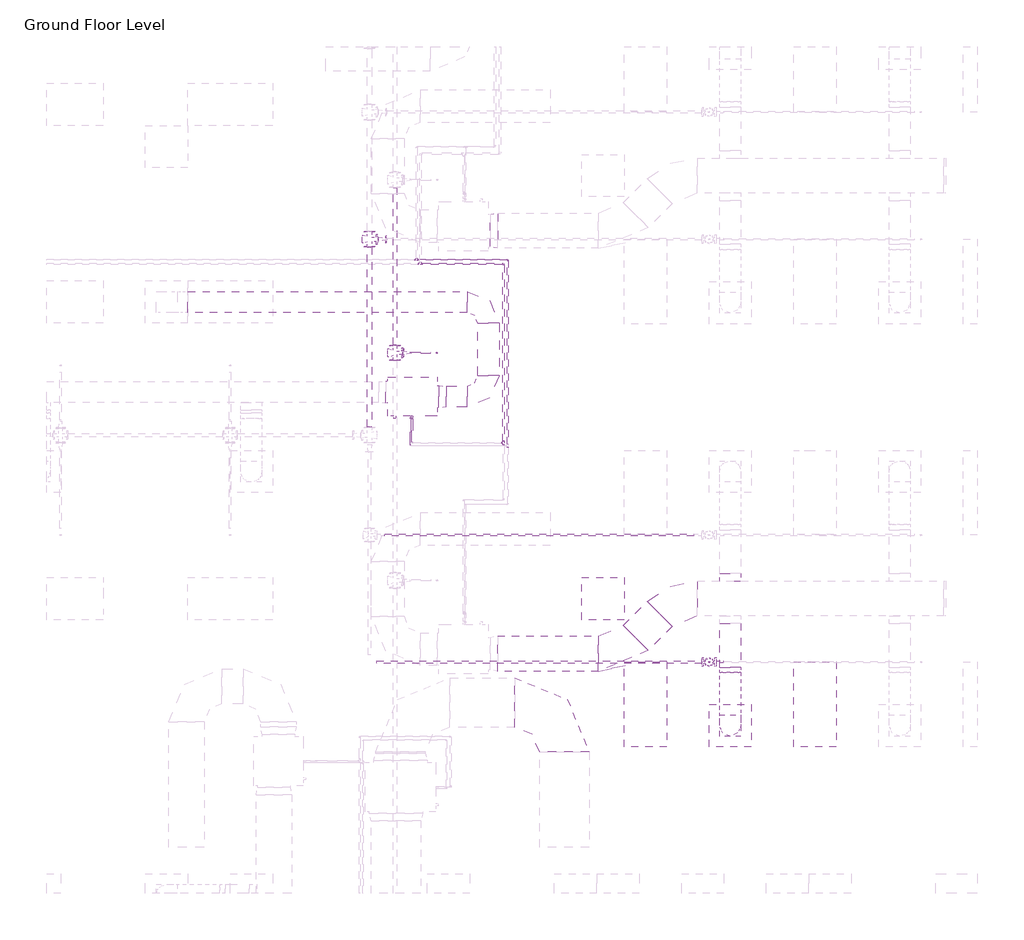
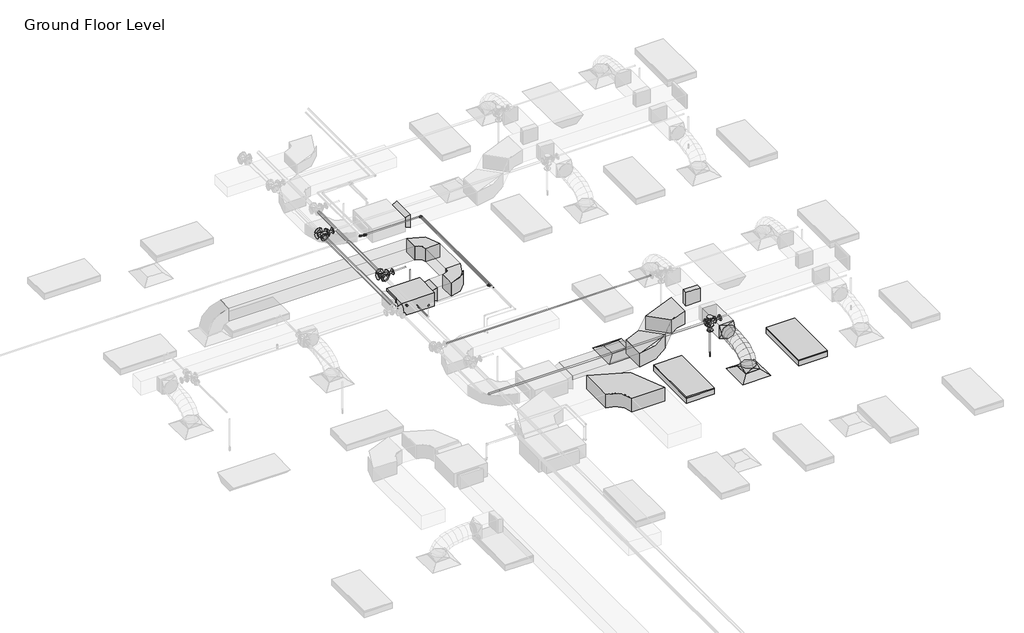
# One storey, part 36 of 74: 19 pipe fittings, 13 pipe segments, 10 duct fittings, 7 duct segments, 2 air terminals, 2 fire suppression terminals, 2 light fixtures, 1 proxy.
"""IFC4 building model written with IfcOpenShell, lengths in millimetres."""

from ifc_helpers import new_model, si_unit, point, frame, frame_2d, origin, place, context, project, spatial, polyline, circle_curve, ellipse_curve, trimmed, segment, composite_curve, outline, extrude, transform, mapped, element, save
from ifc_brep_helpers import plane_surface, cylinder_surface, advanced_brep
from components import m_return_diffuser_600_x_600_face_300_x_300_connection_ff221211, fcu_daikin_iu_27d020f6, m_rectangular_elbow_radius_1_w_618da153, m_rectangular_elbow_radius_1_w_8a62b27e, m_rectangular_elbow_radius_1_5_w_acc56c25, m_rectangular_takeoff_standard_cb0ccb98, m_rectangular_transition_angle_45_degree_2b595dfe, m_rectangular_transition_angle_45_degree_bfac0661, m_rectangular_to_round_transition_angle_45_degree_641efff0, m_sprinkler_dry_pendent_hosted_15_mm_dry_pendent_9bda8e11, m_sprinkler_pendent_15_mm_pendent_06fcbd8e, m_troffer_light_parabolic_rectangular1_0600x1200mm_4_lamp_86473d4a, m_elbow_generic_standard_a088f956, m_elbow_generic_standard_738589b0, m_reducer_flanged_cs_class_150_standard_ccf252ad, m_reducer_flanged_cs_class_150_standard_83138b42, m_reducer_flanged_cs_class_150_standard_a7631c35, m_tee_generic_standard_cdc1cff5, m_tee_generic_standard_5078887e, m_tee_generic_standard_bbfc025c, m_tee_round_base_flanged_cs_class_150_standard_dd767e04, m_tee_round_base_flanged_cs_class_150_standard_7e5987a1, m_tee_round_base_flanged_cs_class_150_standard_ab36f383, m_transition_generic_standard_6dc712c0, m_transition_generic_standard_2351da66, m_transition_generic_standard_bdcfe2c1, m_transition_generic_standard_44e35838

model = new_model("IFC4")

# Units and contexts
model_context = context("Model", 3, world=origin())
ifc_project = project(units=[si_unit("LENGTHUNIT", "METRE", prefix="MILLI")], contexts=[model_context])

# Site, building, storey
site = spatial("IfcSite", under=ifc_project)
building = spatial("IfcBuilding", under=site)
storey = spatial("IfcBuildingStorey", under=building, Name="Ground Floor Level", Elevation=900.0)

# Air terminals
placement = place(None, origin())
m_return_diffuser_600_x_600_face_300_x_300_connection_shape = m_return_diffuser_600_x_600_face_300_x_300_connection_ff221211(model_context)
element("IfcAirTerminal", 1, ObjectType="M_Return Diffuser : 600 x 600 Face 300 x 300 Connection", at=placement, inside=storey, context=model_context, shape_type="MappedRepresentation", body=[
    mapped(m_return_diffuser_600_x_600_face_300_x_300_connection_shape, transform((8942.7672395, -5264.7846466, 3650.0), x_axis=(1.0, 0.0, 0.0), y_axis=(0.0, 1.0, 0.0), z_axis=(0.0, 0.0, 1.0))),
])
element("IfcAirTerminal", 2, ObjectType="M_Supply Diffuser : 600 x 600 Face 300 x 300 Connection", at=placement, inside=storey, context=model_context, shape_type="MappedRepresentation", body=[
    mapped(m_return_diffuser_600_x_600_face_300_x_300_connection_shape, transform((10742.7672395, -7064.7846466, 3650.0), x_axis=(1.0, 0.0, 0.0), y_axis=(0.0, 1.0, 0.0), z_axis=(0.0, 0.0, 1.0))),
])

# Proxy
fcu_daikin_iu_shape = fcu_daikin_iu_27d020f6(model_context)
element("IfcBuildingElementProxy", 3, Name="FCU-DAIKIN IU : 2.3kW, 230V/50Hz/1Ph", ObjectType="FCU-DAIKIN IU : 2.3kW, 230V/50Hz/1Ph", at=placement, inside=storey, context=model_context, shape_type="MappedRepresentation", body=[
    mapped(fcu_daikin_iu_shape, transform((6243.4139492, -2405.2438478, 3934.0874667), x_axis=(0.0, -1.0, 0.0), y_axis=(1.0, 0.0, 0.0), z_axis=(0.0, 0.0, 1.0))),
])

# Duct fittings
m_rectangular_elbow_radius_1_w_shape = m_rectangular_elbow_radius_1_w_618da153(model_context)
element("IfcDuctFitting", 4, ObjectType="M_Rectangular Elbow - Radius : 1 W", at=placement, inside=storey, context=model_context, shape_type="MappedRepresentation", body=[
    mapped(m_rectangular_elbow_radius_1_w_shape, transform((7318.8139492, -2405.2438478, 4075.2874667), x_axis=(1.0, 0.0, 0.0), y_axis=(0.0, 1.0, 0.0), z_axis=(0.0, 0.0, 1.0))),
])
element("IfcDuctFitting", 5, ObjectType="M_Rectangular Elbow - Radius : 1 W", at=placement, inside=storey, context=model_context, shape_type="MappedRepresentation", body=[
    mapped(m_rectangular_elbow_radius_1_w_shape, transform((7318.8139492, -1064.7846466, 4075.2874667), x_axis=(0.0, 1.0, 0.0), y_axis=(-1.0, 0.0, 0.0), z_axis=(0.0, 0.0, 1.0))),
])
m_rectangular_elbow_radius_1_w_2_shape = m_rectangular_elbow_radius_1_w_8a62b27e(model_context)
element("IfcDuctFitting", 6, ObjectType="M_Rectangular Elbow - Radius : 1 W", at=placement, inside=storey, context=model_context, shape_type="MappedRepresentation", body=[
    mapped(m_rectangular_elbow_radius_1_w_2_shape, transform((8393.4139492, -6738.5358641, 4075.2875), x_axis=(0.0, 1.0, 0.0), y_axis=(-1.0, 0.0, 0.0), z_axis=(0.0, 0.0, 1.0))),
])
m_rectangular_elbow_radius_1_5_w_shape = m_rectangular_elbow_radius_1_5_w_acc56c25(model_context)
element("IfcDuctFitting", 7, ObjectType="M_Rectangular Elbow - Radius : 1.5 W", at=placement, inside=storey, context=model_context, shape_type="MappedRepresentation", body=[
    mapped(m_rectangular_elbow_radius_1_5_w_shape, transform((9187.6927358, -6043.8220473, 4100.0047224), x_axis=(0.9999999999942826, 0.0, -3.3815582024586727e-06), y_axis=(-9.063610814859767e-12, 0.9999999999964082, -2.680306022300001e-06), z_axis=(3.3815582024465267e-06, 2.6803060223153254e-06, 0.9999999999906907))),
])
element("IfcDuctFitting", 8, ObjectType="M_Rectangular Elbow - Radius : 1.5 W", at=placement, inside=storey, context=model_context, shape_type="MappedRepresentation", body=[
    mapped(m_rectangular_elbow_radius_1_5_w_shape, transform((9966.7301365, -5264.7846466, 4100.0), x_axis=(-1.0, 0.0, 0.0), y_axis=(0.0, -0.9999999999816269, 6.061864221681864e-06), z_axis=(0.0, 6.061864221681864e-06, 0.9999999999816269))),
])
m_rectangular_takeoff_standard_shape = m_rectangular_takeoff_standard_cb0ccb98(model_context)
element("IfcDuctFitting", 9, ObjectType="M_Rectangular Takeoff : Standard", at=placement, inside=storey, context=model_context, shape_type="MappedRepresentation", body=[
    mapped(m_rectangular_takeoff_standard_shape, transform((10742.7672395, -5014.7846466, 4100.0), x_axis=(0.0, 1.0, 0.0), y_axis=(1.0, 0.0, 0.0), z_axis=(0.0, 0.0, -1.0))),
])
m_rectangular_transition_angle_45_degree_shape = m_rectangular_transition_angle_45_degree_2b595dfe(model_context)
element("IfcDuctFitting", 10, ObjectType="M_Rectangular Transition - Angle : 45 Degree", at=placement, inside=storey, context=model_context, shape_type="MappedRepresentation", body=[
    mapped(m_rectangular_transition_angle_45_degree_shape, transform((7344.2139492, -53.8220473, 4100.0057729), x_axis=(1.0, 0.0, 0.0), y_axis=(0.0, 1.0, 0.0), z_axis=(0.0, 0.0, 1.0))),
])
m_rectangular_transition_angle_45_degree_2_shape = m_rectangular_transition_angle_45_degree_bfac0661(model_context)
element("IfcDuctFitting", 11, ObjectType="M_Rectangular Transition - Angle : 45 Degree", at=placement, inside=storey, context=model_context, shape_type="MappedRepresentation", body=[
    mapped(m_rectangular_transition_angle_45_degree_2_shape, transform((6618.8139492, -2405.2438478, 4075.2874667), x_axis=(1.0, 0.0, 0.0), y_axis=(0.0, 1.0, 0.0), z_axis=(0.0, 0.0, 1.0))),
])
m_rectangular_to_round_transition_angle_45_degree_shape = m_rectangular_to_round_transition_angle_45_degree_641efff0(model_context)
element("IfcDuctFitting", 12, ObjectType="M_Rectangular to Round Transition - Angle : 45 Degree", at=placement, inside=storey, context=model_context, shape_type="MappedRepresentation", body=[
    mapped(m_rectangular_to_round_transition_angle_45_degree_shape, transform((10742.7672395, -7064.7846466, 3751.6), x_axis=(0.0, 0.0, 1.0), y_axis=(-1.0, 0.0, 0.0), z_axis=(0.0, -1.0, 0.0))),
])
element("IfcDuctFitting", 13, ObjectType="M_Rectangular to Round Transition - Angle : 45 Degree", at=placement, inside=storey, context=model_context, shape_type="MappedRepresentation", body=[
    mapped(m_rectangular_to_round_transition_angle_45_degree_shape, transform((10742.7672395, -6237.4487153, 4100.0), x_axis=(0.0, -1.0, 0.0), y_axis=(1.0, 0.0, 0.0), z_axis=(0.0, 0.0, 1.0))),
])

# Duct segments
element("IfcDuctSegment", 14, ObjectType="Flex - Round", at=placement, inside=storey, context=model_context, shape_type="AdvancedBrep", body=[
    advanced_brep(
    [(10892.7672395, -7064.7846466, 3826.6), (10742.7672395, -7214.7846466, 3826.6), (10592.7672395, -7064.7846466, 3826.6), (10742.7672395, -6914.7846466, 3826.6), (10892.7672395, -7064.7846466, 3857.9377114), (10742.7672395, -7214.7846466, 3883.5809337), (10592.7672395, -7064.7846466, 3857.9377114), (10742.7672395, -6914.7846466, 3832.2944892), (10892.7672395, -7047.7687141, 3906.2505728), (10742.7672395, -7181.506693, 3978.0660967), (10592.7672395, -7047.7687141, 3906.2505728), (10742.7672395, -6914.0307351, 3834.435049), (10892.7672395, -7000.5848337, 3968.7113131), (10742.7672395, -7104.7907329, 4079.6206026), (10592.7672395, -7000.5848337, 3968.7113131), (10742.7672395, -6896.3789345, 3857.8020236), (10892.7672395, -6929.0288815, 4016.0700639), (10742.7672395, -6997.9629372, 4150.3237489), (10592.7672395, -6929.0288815, 4016.0700639), (10742.7672395, -6860.0948259, 3881.8163788), (10892.7672395, -6838.8967335, 4050.4146682), (10742.7672395, -6882.4574967, 4194.3367758), (10592.7672395, -6838.8967335, 4050.4146682), (10742.7672395, -6795.3359704, 3906.4925606), (10892.7672395, -6735.9842657, 4073.8329691), (10742.7672395, -6762.5451897, 4221.6234841), (10592.7672395, -6735.9842657, 4073.8329691), (10742.7672395, -6709.4233417, 3926.0424542), (10892.7672395, -6626.087354, 4088.4128097), (10742.7672395, -6641.2382563, 4237.7170733), (10592.7672395, -6626.087354, 4088.4128097), (10742.7672395, -6610.9364516, 3939.1085462), (10892.7672395, -6515.0018743, 4096.242033), (10742.7672395, -6522.5072025, 4246.085151), (10592.7672395, -6515.0018743, 4096.242033), (10742.7672395, -6507.4965462, 3946.398915), (10892.7672395, -6408.5237028, 4099.4084821), (10742.7672395, -6411.2151959, 4249.394754), (10592.7672395, -6408.5237028, 4099.4084821), (10742.7672395, -6405.8322097, 3949.4222102), (10892.7672395, -6312.4487153, 4100.0), (10742.7672395, -6311.5252075, 3950.0028429), (10592.7672395, -6312.4487153, 4100.0), (10742.7672395, -6313.3722232, 4249.9971571)],
    [
        (0, 1, circle_curve(frame((10742.7672395, -7064.7846466, 3826.6), z_axis=(0.0, 0.0, -1.0), x_axis=(1.0, 0.0, 0.0)), 150.0)),
        (1, 2, circle_curve(frame((10742.7672395, -7064.7846466, 3826.6), z_axis=(0.0, 0.0, -1.0), x_axis=(1.0, 0.0, 0.0)), 150.0)),
        (2, 3, circle_curve(frame((10742.7672395, -7064.7846466, 3826.6), z_axis=(0.0, 0.0, -1.0), x_axis=(1.0, 0.0, 0.0)), 150.0)),
        (3, 0, circle_curve(frame((10742.7672395, -7064.7846466, 3826.6), z_axis=(0.0, 0.0, -1.0), x_axis=(1.0, 0.0, 0.0)), 150.0)),
        (0, 4),
        (4, 5, ellipse_curve(frame((10742.7672395, -7064.7846466, 3857.9377114), z_axis=(0.0, -0.16851014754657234, -0.9856999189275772), x_axis=(0.0, 0.9856999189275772, -0.1685101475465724)), 152.176131, 150.0)),
        (5, 1),
        (5, 6, ellipse_curve(frame((10742.7672395, -7064.7846466, 3857.9377114), z_axis=(0.0, -0.16851014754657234, -0.9856999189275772), x_axis=(0.0, 0.9856999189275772, -0.1685101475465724)), 152.176131, 150.0)),
        (6, 2),
        (6, 7, ellipse_curve(frame((10742.7672395, -7064.7846466, 3857.9377114), z_axis=(0.0, -0.16851014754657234, -0.9856999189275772), x_axis=(0.0, 0.9856999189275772, -0.1685101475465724)), 152.176131, 150.0)),
        (7, 3),
        (7, 4, ellipse_curve(frame((10742.7672395, -7064.7846466, 3857.9377114), z_axis=(0.0, -0.16851014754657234, -0.9856999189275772), x_axis=(0.0, 0.9856999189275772, -0.1685101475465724)), 152.176131, 150.0)),
        (4, 8),
        (8, 9, ellipse_curve(frame((10742.7672395, -7047.7687141, 3906.2505728), z_axis=(0.0, -0.4730922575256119, -0.8810128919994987), x_axis=(0.0, 0.8810128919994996, -0.47309225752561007)), 151.8002519, 150.0)),
        (9, 5),
        (9, 10, ellipse_curve(frame((10742.7672395, -7047.7687141, 3906.2505728), z_axis=(0.0, -0.4730922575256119, -0.8810128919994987), x_axis=(0.0, 0.8810128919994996, -0.47309225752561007)), 151.8002519, 150.0)),
        (10, 6),
        (10, 11, ellipse_curve(frame((10742.7672395, -7047.7687141, 3906.2505728), z_axis=(0.0, -0.4730922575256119, -0.8810128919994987), x_axis=(0.0, 0.8810128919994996, -0.47309225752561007)), 151.8002519, 150.0)),
        (11, 7),
        (11, 8, ellipse_curve(frame((10742.7672395, -7047.7687141, 3906.2505728), z_axis=(0.0, -0.4730922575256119, -0.8810128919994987), x_axis=(0.0, 0.8810128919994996, -0.47309225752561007)), 151.8002519, 150.0)),
        (8, 12),
        (12, 13, ellipse_curve(frame((10742.7672395, -7000.5848337, 3968.7113131), z_axis=(0.0, -0.7287877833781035, -0.6847396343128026), x_axis=(0.0, 0.6847396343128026, -0.7287877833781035)), 152.1832446, 150.0)),
        (13, 9),
        (13, 14, ellipse_curve(frame((10742.7672395, -7000.5848337, 3968.7113131), z_axis=(0.0, -0.7287877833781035, -0.6847396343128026), x_axis=(0.0, 0.6847396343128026, -0.7287877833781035)), 152.1832446, 150.0)),
        (14, 10),
        (14, 15, ellipse_curve(frame((10742.7672395, -7000.5848337, 3968.7113131), z_axis=(0.0, -0.7287877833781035, -0.6847396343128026), x_axis=(0.0, 0.6847396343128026, -0.7287877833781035)), 152.1832446, 150.0)),
        (15, 11),
        (15, 12, ellipse_curve(frame((10742.7672395, -7000.5848337, 3968.7113131), z_axis=(0.0, -0.7287877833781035, -0.6847396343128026), x_axis=(0.0, 0.6847396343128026, -0.7287877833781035)), 152.1832446, 150.0)),
        (12, 16),
        (16, 17, ellipse_curve(frame((10742.7672395, -6929.0288815, 4016.0700639), z_axis=(0.0, -0.8895859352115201, -0.4567678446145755), x_axis=(0.0, 0.45676784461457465, -0.8895859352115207)), 150.91705, 150.0)),
        (17, 13),
        (17, 18, ellipse_curve(frame((10742.7672395, -6929.0288815, 4016.0700639), z_axis=(0.0, -0.8895859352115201, -0.4567678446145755), x_axis=(0.0, 0.45676784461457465, -0.8895859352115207)), 150.91705, 150.0)),
        (18, 14),
        (18, 19, ellipse_curve(frame((10742.7672395, -6929.0288815, 4016.0700639), z_axis=(0.0, -0.8895859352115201, -0.4567678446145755), x_axis=(0.0, 0.45676784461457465, -0.8895859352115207)), 150.91705, 150.0)),
        (19, 15),
        (19, 16, ellipse_curve(frame((10742.7672395, -6929.0288815, 4016.0700639), z_axis=(0.0, -0.8895859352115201, -0.4567678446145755), x_axis=(0.0, 0.45676784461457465, -0.8895859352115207)), 150.91705, 150.0)),
        (16, 20),
        (20, 21, ellipse_curve(frame((10742.7672395, -6838.8967335, 4050.4146682), z_axis=(0.0, -0.9571203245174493, -0.28969067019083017), x_axis=(0.0, 0.28969067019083, -0.9571203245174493)), 150.369921, 150.0)),
        (21, 17),
        (21, 22, ellipse_curve(frame((10742.7672395, -6838.8967335, 4050.4146682), z_axis=(0.0, -0.9571203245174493, -0.28969067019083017), x_axis=(0.0, 0.28969067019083, -0.9571203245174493)), 150.369921, 150.0)),
        (22, 18),
        (22, 23, ellipse_curve(frame((10742.7672395, -6838.8967335, 4050.4146682), z_axis=(0.0, -0.9571203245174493, -0.28969067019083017), x_axis=(0.0, 0.28969067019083, -0.9571203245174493)), 150.369921, 150.0)),
        (23, 19),
        (23, 20, ellipse_curve(frame((10742.7672395, -6838.8967335, 4050.4146682), z_axis=(0.0, -0.9571203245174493, -0.28969067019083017), x_axis=(0.0, 0.28969067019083, -0.9571203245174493)), 150.369921, 150.0)),
        (20, 24),
        (24, 25, ellipse_curve(frame((10742.7672395, -6735.9842657, 4073.8329691), z_axis=(0.0, -0.9842313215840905, -0.1768861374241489), x_axis=(0.0, 0.17688613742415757, -0.9842313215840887)), 150.1583131, 150.0)),
        (25, 21),
        (25, 26, ellipse_curve(frame((10742.7672395, -6735.9842657, 4073.8329691), z_axis=(0.0, -0.9842313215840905, -0.1768861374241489), x_axis=(0.0, 0.17688613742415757, -0.9842313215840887)), 150.1583131, 150.0)),
        (26, 22),
        (26, 27, ellipse_curve(frame((10742.7672395, -6735.9842657, 4073.8329691), z_axis=(0.0, -0.9842313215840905, -0.1768861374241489), x_axis=(0.0, 0.17688613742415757, -0.9842313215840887)), 150.1583131, 150.0)),
        (27, 23),
        (27, 24, ellipse_curve(frame((10742.7672395, -6735.9842657, 4073.8329691), z_axis=(0.0, -0.9842313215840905, -0.1768861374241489), x_axis=(0.0, 0.17688613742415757, -0.9842313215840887)), 150.1583131, 150.0)),
        (24, 28),
        (28, 29, ellipse_curve(frame((10742.7672395, -6626.087354, 4088.4128097), z_axis=(0.0, -0.9948906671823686, -0.10095821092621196), x_axis=(0.0, 0.10095821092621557, -0.9948906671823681)), 150.0710264, 150.0)),
        (29, 25),
        (29, 30, ellipse_curve(frame((10742.7672395, -6626.087354, 4088.4128097), z_axis=(0.0, -0.9948906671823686, -0.10095821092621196), x_axis=(0.0, 0.10095821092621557, -0.9948906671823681)), 150.0710264, 150.0)),
        (30, 26),
        (30, 31, ellipse_curve(frame((10742.7672395, -6626.087354, 4088.4128097), z_axis=(0.0, -0.9948906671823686, -0.10095821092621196), x_axis=(0.0, 0.10095821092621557, -0.9948906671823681)), 150.0710264, 150.0)),
        (31, 27),
        (31, 28, ellipse_curve(frame((10742.7672395, -6626.087354, 4088.4128097), z_axis=(0.0, -0.9948906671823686, -0.10095821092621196), x_axis=(0.0, 0.10095821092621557, -0.9948906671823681)), 150.0710264, 150.0)),
        (28, 32),
        (32, 33, ellipse_curve(frame((10742.7672395, -6515.0018743, 4096.242033), z_axis=(0.0, -0.9987479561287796, -0.05002519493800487), x_axis=(0.0, 0.050025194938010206, -0.9987479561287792)), 150.0309634, 150.0)),
        (33, 29),
        (33, 34, ellipse_curve(frame((10742.7672395, -6515.0018743, 4096.242033), z_axis=(0.0, -0.9987479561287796, -0.05002519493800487), x_axis=(0.0, 0.050025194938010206, -0.9987479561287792)), 150.0309634, 150.0)),
        (34, 30),
        (34, 35, ellipse_curve(frame((10742.7672395, -6515.0018743, 4096.242033), z_axis=(0.0, -0.9987479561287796, -0.05002519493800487), x_axis=(0.0, 0.050025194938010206, -0.9987479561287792)), 150.0309634, 150.0)),
        (35, 31),
        (35, 32, ellipse_curve(frame((10742.7672395, -6515.0018743, 4096.242033), z_axis=(0.0, -0.9987479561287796, -0.05002519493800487), x_axis=(0.0, 0.050025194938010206, -0.9987479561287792)), 150.0309634, 150.0)),
        (32, 36),
        (36, 37, ellipse_curve(frame((10742.7672395, -6408.5237028, 4099.4084821), z_axis=(0.0, -0.9998390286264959, -0.017942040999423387), x_axis=(0.0, 0.01794204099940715, -0.9998390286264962)), 150.0104193, 150.0)),
        (37, 33),
        (37, 38, ellipse_curve(frame((10742.7672395, -6408.5237028, 4099.4084821), z_axis=(0.0, -0.9998390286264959, -0.017942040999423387), x_axis=(0.0, 0.01794204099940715, -0.9998390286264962)), 150.0104193, 150.0)),
        (38, 34),
        (38, 39, ellipse_curve(frame((10742.7672395, -6408.5237028, 4099.4084821), z_axis=(0.0, -0.9998390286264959, -0.017942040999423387), x_axis=(0.0, 0.01794204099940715, -0.9998390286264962)), 150.0104193, 150.0)),
        (39, 35),
        (39, 36, ellipse_curve(frame((10742.7672395, -6408.5237028, 4099.4084821), z_axis=(0.0, -0.9998390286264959, -0.017942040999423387), x_axis=(0.0, 0.01794204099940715, -0.9998390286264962)), 150.0104193, 150.0)),
        (40, 41, circle_curve(frame((10742.7672395, -6312.4487153, 4100.0), z_axis=(0.0, 0.9999810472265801, 0.0061567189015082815), x_axis=(1.0, 0.0, 0.0)), 150.0)),
        (41, 42, circle_curve(frame((10742.7672395, -6312.4487153, 4100.0), z_axis=(0.0, 0.9999810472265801, 0.0061567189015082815), x_axis=(1.0, 0.0, 0.0)), 150.0)),
        (42, 43, circle_curve(frame((10742.7672395, -6312.4487153, 4100.0), z_axis=(0.0, 0.9999810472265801, 0.0061567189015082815), x_axis=(1.0, 0.0, 0.0)), 150.0)),
        (43, 40, circle_curve(frame((10742.7672395, -6312.4487153, 4100.0), z_axis=(0.0, 0.9999810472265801, 0.0061567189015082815), x_axis=(1.0, 0.0, 0.0)), 150.0)),
        (36, 40),
        (43, 37),
        (42, 38),
        (41, 39),
    ],
    [
        plane_surface(frame((10742.7672395, -7214.7846466, 3826.6), z_axis=(0.0, 0.0, -1.0), x_axis=(1.0, 0.0, 0.0))),
        cylinder_surface(frame((10742.7672395, -7064.7846466, 3826.6), z_axis=(0.0, 0.0, -1.0), x_axis=(1.0, 0.0, 0.0)), 150.0),
        cylinder_surface(frame((10742.7672395, -7064.7846466, 3857.9377114), z_axis=(0.0, -0.3322008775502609, -0.9432086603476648), x_axis=(1.0, 0.0, 0.0)), 150.0),
        cylinder_surface(frame((10742.7672395, -7047.7687141, 3906.2505728), z_axis=(0.0, -0.6027625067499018, -0.7979206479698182), x_axis=(1.0, 0.0, 0.0)), 150.0),
        cylinder_surface(frame((10742.7672395, -7000.5848337, 3968.7113131), z_axis=(0.0, -0.8339024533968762, -0.5519118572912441), x_axis=(1.0, 0.0, 0.0)), 150.0),
        cylinder_surface(frame((10742.7672395, -6929.0288815, 4016.0700639), z_axis=(0.0, -0.9344582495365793, -0.3560727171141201), x_axis=(1.0, 0.0, 0.0)), 150.0),
        cylinder_surface(frame((10742.7672395, -6838.8967335, 4050.4146682), z_axis=(0.0, -0.9750732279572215, -0.2218833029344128), x_axis=(1.0, 0.0, 0.0)), 150.0),
        cylinder_surface(frame((10742.7672395, -6735.9842657, 4073.8329691), z_axis=(0.0, -0.9913140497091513, -0.13151598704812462), x_axis=(1.0, 0.0, 0.0)), 150.0),
        cylinder_surface(frame((10742.7672395, -6626.087354, 4088.4128097), z_axis=(0.0, -0.9975255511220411, -0.07030487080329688), x_axis=(1.0, 0.0, 0.0)), 150.0),
        cylinder_surface(frame((10742.7672395, -6515.0018743, 4096.242033), z_axis=(0.0, -0.9995581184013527, -0.02972487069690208), x_axis=(1.0, 0.0, 0.0)), 150.0),
        plane_surface(frame((10742.7672395, -6313.3722232, 4249.9971571), z_axis=(0.0, 0.9999810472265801, 0.0061567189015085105), x_axis=(1.0, 0.0, 0.0))),
        cylinder_surface(frame((10742.7672395, -6408.5237028, 4099.4084821), z_axis=(0.0, -0.9999810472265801, -0.0061567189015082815), x_axis=(1.0, 0.0, 0.0)), 150.0),
    ],
    [
        (0, [[1, 2, 3, 4]]),
        (1, [[-1, 5, 6, 7]]),
        (1, [[-2, -7, 8, 9]]),
        (1, [[-3, -9, 10, 11]]),
        (1, [[-4, -11, 12, -5]]),
        (2, [[-6, 13, 14, 15]]),
        (2, [[-8, -15, 16, 17]]),
        (2, [[-10, -17, 18, 19]]),
        (2, [[-12, -19, 20, -13]]),
        (3, [[-14, 21, 22, 23]]),
        (3, [[-16, -23, 24, 25]]),
        (3, [[-18, -25, 26, 27]]),
        (3, [[-20, -27, 28, -21]]),
        (4, [[-22, 29, 30, 31]]),
        (4, [[-24, -31, 32, 33]]),
        (4, [[-26, -33, 34, 35]]),
        (4, [[-28, -35, 36, -29]]),
        (5, [[-30, 37, 38, 39]]),
        (5, [[-32, -39, 40, 41]]),
        (5, [[-34, -41, 42, 43]]),
        (5, [[-36, -43, 44, -37]]),
        (6, [[-38, 45, 46, 47]]),
        (6, [[-40, -47, 48, 49]]),
        (6, [[-42, -49, 50, 51]]),
        (6, [[-44, -51, 52, -45]]),
        (7, [[-46, 53, 54, 55]]),
        (7, [[-48, -55, 56, 57]]),
        (7, [[-50, -57, 58, 59]]),
        (7, [[-52, -59, 60, -53]]),
        (8, [[-54, 61, 62, 63]]),
        (8, [[-56, -63, 64, 65]]),
        (8, [[-58, -65, 66, 67]]),
        (8, [[-60, -67, 68, -61]]),
        (9, [[-62, 69, 70, 71]]),
        (9, [[-64, -71, 72, 73]]),
        (9, [[-66, -73, 74, 75]]),
        (9, [[-68, -75, 76, -69]]),
        (10, [[77, 78, 79, 80]]),
        (11, [[-70, 81, -80, 82]]),
        (11, [[-72, -82, -79, 83]]),
        (11, [[-74, -83, -78, 84]]),
        (11, [[-76, -84, -77, -81]]),
    ],
),
])
element("IfcDuctSegment", 15, ObjectType="Radius Elbows / Taps", at=placement, inside=storey, context=model_context, shape_type="SweptSolid", body=[
    extrude(outline(polyline([(7447.693178, -6293.8220473), (7447.693178, -5793.8220473), (8877.032564, -5793.8220473), (8877.032564, -6293.8220473), (7447.693178, -6293.8220473)])), frame((0.0, 0.0, 3950.0057729), z_axis=(0.0, 0.0, 1.0), x_axis=(1.0, 0.0, 0.0)), (0.0, 0.0, 1.0), 300.0),
])
element("IfcDuctSegment", 16, ObjectType="Radius Elbows / Taps", at=placement, inside=storey, context=model_context, shape_type="SweptSolid", body=[
    extrude(outline(polyline([(9584.1393452, -6000.9288285), (9230.5859546, -5647.3754379), (9570.2835271, -5307.6778654), (9923.8369177, -5661.231256), (9584.1393452, -6000.9288285)])), frame((0.0, 0.0, 3950.0033908), z_axis=(0.0, 0.0, 1.0), x_axis=(1.0, 0.0, 0.0)), (0.0, 0.0, 1.0), 300.0),
])
element("IfcDuctSegment", 17, ObjectType="Radius Elbows / Taps", at=placement, inside=storey, context=model_context, shape_type="SweptSolid", body=[
    extrude(outline(polyline([(6722.2630004, -2555.2438478), (6722.2630004, -2255.2438478), (7018.8139492, -2255.2438478), (7018.8139492, -2555.2438478), (6722.2630004, -2555.2438478)])), frame((0.0, 0.0, 3925.2874667), z_axis=(0.0, 0.0, 1.0), x_axis=(1.0, 0.0, 0.0)), (0.0, 0.0, 1.0), 300.0),
])
element("IfcDuctSegment", 18, ObjectType="Radius Elbows / Taps", at=placement, inside=storey, context=model_context, shape_type="SweptSolid", body=[
    extrude(outline(polyline([(7468.8139492, -2105.2438478), (7168.8139492, -2105.2438478), (7168.8139492, -1364.7846466), (7468.8139492, -1364.7846466), (7468.8139492, -2105.2438478)])), frame((0.0, 0.0, 3925.2874667), z_axis=(0.0, 0.0, 1.0), x_axis=(1.0, 0.0, 0.0)), (0.0, 0.0, 1.0), 300.0),
])
element("IfcDuctSegment", 19, ObjectType="Radius Elbows / Taps", at=placement, inside=storey, context=model_context, shape_type="SweptSolid", body=[
    extrude(outline(polyline([(3062.7672395, -1214.7846466), (3062.7672395, -914.7846466), (7018.8139492, -914.7846466), (7018.8139492, -1214.7846466), (3062.7672395, -1214.7846466)])), frame((0.0, 0.0, 3925.2874667), z_axis=(0.0, 0.0, 1.0), x_axis=(1.0, 0.0, 0.0)), (0.0, 0.0, 1.0), 300.0),
])
element("IfcDuctSegment", 20, ObjectType="Radius Elbows / Taps", at=placement, inside=storey, context=model_context, shape_type="SweptSolid", body=[
    extrude(outline(polyline([(10592.7672395, -5616.3846466), (10892.7672395, -5616.3846466), (10892.7672395, -6237.4487153), (10592.7672395, -6237.4487153), (10592.7672395, -5616.3846466)])), frame((0.0, 0.0, 3950.0), z_axis=(0.0, 0.0, 1.0), x_axis=(1.0, 0.0, 0.0)), (0.0, 0.0, 1.0), 300.0),
])

# Fire suppression terminals
m_sprinkler_dry_pendent_hosted_15_mm_dry_pendent_shape = m_sprinkler_dry_pendent_hosted_15_mm_dry_pendent_9bda8e11(model_context)
element("IfcFireSuppressionTerminal", 21, ObjectType="M_Sprinkler - Dry - Pendent - Hosted : 15 mm Dry Pendent", at=placement, inside=storey, context=model_context, shape_type="MappedRepresentation", body=[
    mapped(m_sprinkler_dry_pendent_hosted_15_mm_dry_pendent_shape, transform((10442.7672395, -6164.7846466, 3650.0), x_axis=(1.0, 0.0, 0.0), y_axis=(0.0, -1.0, 0.0), z_axis=(0.0, 0.0, -1.0))),
])
m_sprinkler_pendent_15_mm_pendent_shape = m_sprinkler_pendent_15_mm_pendent_06fcbd8e(model_context)
element("IfcFireSuppressionTerminal", 22, ObjectType="M_Sprinkler - Pendent : 15 mm Pendent", at=placement, inside=storey, context=model_context, shape_type="MappedRepresentation", body=[
    mapped(m_sprinkler_pendent_15_mm_pendent_shape, transform((6592.5481019, -1785.2908301, 3650.0), x_axis=(1.0, 0.0, 0.0), y_axis=(0.0, 1.0, 0.0), z_axis=(0.0, 0.0, 1.0))),
])

# Light fixtures
m_troffer_light_parabolic_rectangular1_0600x1200mm_4_lamp_shape = m_troffer_light_parabolic_rectangular1_0600x1200mm_4_lamp_86473d4a(model_context)
element("IfcLightFixture", 23, ObjectType="M_Troffer Light - Parabolic Rectangular1 : 0600x1200mm(4 Lamp) - 277V 2", at=placement, inside=storey, context=model_context, shape_type="MappedRepresentation", body=[
    mapped(m_troffer_light_parabolic_rectangular1_0600x1200mm_4_lamp_shape, transform((9483.3013074, -6746.081145, 3650.0), x_axis=(0.0, 1.0, 0.0), y_axis=(-1.0, 0.0, 0.0), z_axis=(0.0, 0.0, 1.0))),
])
element("IfcLightFixture", 24, ObjectType="M_Troffer Light - Parabolic Rectangular1 : 0600x1200mm(4 Lamp) - 277V 2", at=placement, inside=storey, context=model_context, shape_type="MappedRepresentation", body=[
    mapped(m_troffer_light_parabolic_rectangular1_0600x1200mm_4_lamp_shape, transform((11883.3013074, -6746.081145, 3650.0), x_axis=(0.0, 1.0, 0.0), y_axis=(-1.0, 0.0, 0.0), z_axis=(0.0, 0.0, 1.0))),
])

# Pipe fittings
m_elbow_generic_standard_shape = m_elbow_generic_standard_a088f956(model_context)
element("IfcPipeFitting", 25, ObjectType="M_Elbow - Generic : Standard", at=placement, inside=storey, context=model_context, shape_type="MappedRepresentation", body=[
    mapped(m_elbow_generic_standard_shape, transform((7594.4307053, -465.9814862, 4265.0), x_axis=(0.0, 1.0, 0.0), y_axis=(-1.0, 0.0, 0.0), z_axis=(0.0, 0.0, 1.0))),
])
m_elbow_generic_standard_2_shape = m_elbow_generic_standard_738589b0(model_context)
element("IfcPipeFitting", 26, ObjectType="M_Elbow - Generic : Standard", at=placement, inside=storey, context=model_context, shape_type="MappedRepresentation", body=[
    mapped(m_elbow_generic_standard_2_shape, transform((7534.4307053, -523.9901455, 4300.0), x_axis=(0.0, 1.0, 0.0), y_axis=(-1.0, 0.0, 0.0), z_axis=(0.0, 0.0, 1.0))),
])
m_reducer_flanged_cs_class_150_standard_shape = m_reducer_flanged_cs_class_150_standard_ccf252ad(model_context)
element("IfcPipeFitting", 27, ObjectType="M_Reducer - Flanged - CS - Class 150 : Standard", at=placement, inside=storey, context=model_context, shape_type="MappedRepresentation", body=[
    mapped(m_reducer_flanged_cs_class_150_standard_shape, transform((10543.4758332, -6164.7846466, 4360.0), x_axis=(1.0, 0.0, 0.0), y_axis=(0.0, 0.0, 1.0), z_axis=(0.0, -1.0, 0.0))),
])
element("IfcPipeFitting", 28, ObjectType="M_Reducer - Flanged - CS - Class 150 : Standard", at=placement, inside=storey, context=model_context, shape_type="MappedRepresentation", body=[
    mapped(m_reducer_flanged_cs_class_150_standard_shape, transform((10442.7672395, -6164.7846466, 4259.2914063), x_axis=(0.0, 0.0, -1.0), y_axis=(-1.0, 0.0, 0.0), z_axis=(0.0, 1.0, 0.0))),
])
m_reducer_flanged_cs_class_150_standard_2_shape = m_reducer_flanged_cs_class_150_standard_83138b42(model_context)
element("IfcPipeFitting", 29, ObjectType="M_Reducer - Flanged - CS - Class 150 : Standard", at=placement, inside=storey, context=model_context, shape_type="MappedRepresentation", body=[
    mapped(m_reducer_flanged_cs_class_150_standard_2_shape, transform((6109.3164057, -1785.2908301, 4291.2754753), x_axis=(1.0, 0.0, 0.0), y_axis=(0.0, 0.0, -1.0), z_axis=(0.0, 1.0, 0.0))),
])
m_reducer_flanged_cs_class_150_standard_3_shape = m_reducer_flanged_cs_class_150_standard_a7631c35(model_context)
element("IfcPipeFitting", 30, ObjectType="M_Reducer - Flanged - CS - Class 150 : Standard", at=placement, inside=storey, context=model_context, shape_type="MappedRepresentation", body=[
    mapped(m_reducer_flanged_cs_class_150_standard_3_shape, transform((5749.869498, -174.7846466, 4360.0), x_axis=(1.0, 0.0, 0.0), y_axis=(0.0, 0.0, 1.0), z_axis=(0.0, -1.0, 0.0))),
])
m_tee_generic_standard_shape = m_tee_generic_standard_cdc1cff5(model_context)
element("IfcPipeFitting", 31, ObjectType="M_Tee - Generic : Standard", at=placement, inside=storey, context=model_context, shape_type="MappedRepresentation", body=[
    mapped(m_tee_generic_standard_shape, transform((6302.4595152, -465.9814862, 4265.0), x_axis=(1.0, 0.0, 0.0), y_axis=(0.0, -1.0, 0.0), z_axis=(0.0, 0.0, -1.0))),
])
m_tee_generic_standard_2_shape = m_tee_generic_standard_5078887e(model_context)
element("IfcPipeFitting", 32, ObjectType="M_Tee - Generic : Standard", at=placement, inside=storey, context=model_context, shape_type="MappedRepresentation", body=[
    mapped(m_tee_generic_standard_2_shape, transform((7534.4307053, -3060.5124002, 4300.0), x_axis=(0.0, 1.0, 0.0), y_axis=(1.0, 0.0, 0.0), z_axis=(0.0, 0.0, -1.0))),
])
m_tee_generic_standard_3_shape = m_tee_generic_standard_bbfc025c(model_context)
element("IfcPipeFitting", 33, ObjectType="M_Tee - Generic : Standard", at=placement, inside=storey, context=model_context, shape_type="MappedRepresentation", body=[
    mapped(m_tee_generic_standard_3_shape, transform((6355.3210494, -523.9901455, 4300.0), x_axis=(1.0, 0.0, 0.0), y_axis=(0.0, -1.0, 0.0), z_axis=(0.0, 0.0, -1.0))),
])
m_tee_round_base_flanged_cs_class_150_standard_shape = m_tee_round_base_flanged_cs_class_150_standard_dd767e04(model_context)
element("IfcPipeFitting", 34, ObjectType="M_Tee Round Base - Flanged - CS - Class 150 : Standard", at=placement, inside=storey, context=model_context, shape_type="MappedRepresentation", body=[
    mapped(m_tee_round_base_flanged_cs_class_150_standard_shape, transform((5635.869498, -174.7846466, 4360.0), x_axis=(0.0, 1.0, 0.0), y_axis=(-1.0, 0.0, 0.0), z_axis=(0.0, 0.0, 1.0))),
])
m_tee_round_base_flanged_cs_class_150_standard_2_shape = m_tee_round_base_flanged_cs_class_150_standard_7e5987a1(model_context)
element("IfcPipeFitting", 35, ObjectType="M_Tee Round Base - Flanged - CS - Class 150 : Standard", at=placement, inside=storey, context=model_context, shape_type="MappedRepresentation", body=[
    mapped(m_tee_round_base_flanged_cs_class_150_standard_2_shape, transform((10442.7672395, -6164.7846466, 4360.0), x_axis=(1.0, 0.0, 0.0), y_axis=(0.0, 0.0, 1.0), z_axis=(0.0, -1.0, 0.0))),
])
m_tee_round_base_flanged_cs_class_150_standard_3_shape = m_tee_round_base_flanged_cs_class_150_standard_ab36f383(model_context)
element("IfcPipeFitting", 36, ObjectType="M_Tee Round Base - Flanged - CS - Class 150 : Standard", at=placement, inside=storey, context=model_context, shape_type="MappedRepresentation", body=[
    mapped(m_tee_round_base_flanged_cs_class_150_standard_3_shape, transform((5997.057812, -1785.2908301, 4291.0943441), x_axis=(0.0, 1.0, 0.0), y_axis=(-1.0, 0.0, 0.0), z_axis=(0.0, 0.0, 1.0))),
])
m_transition_generic_standard_shape = m_transition_generic_standard_6dc712c0(model_context)
element("IfcPipeFitting", 37, ObjectType="M_Transition - Generic : Standard", at=placement, inside=storey, context=model_context, shape_type="MappedRepresentation", body=[
    mapped(m_transition_generic_standard_shape, transform((6324.6845152, -465.9814862, 4265.0), x_axis=(1.0, 0.0, 0.0), y_axis=(0.0, 1.0, 0.0), z_axis=(0.0, 0.0, 1.0))),
])
element("IfcPipeFitting", 38, ObjectType="M_Transition - Generic : Standard", at=placement, inside=storey, context=model_context, shape_type="MappedRepresentation", body=[
    mapped(m_transition_generic_standard_shape, transform((6280.2345152, -465.9814862, 4265.0), x_axis=(-1.0, 0.0, 0.0), y_axis=(0.0, -1.0, 0.0), z_axis=(0.0, 0.0, 1.0))),
])
m_transition_generic_standard_2_shape = m_transition_generic_standard_2351da66(model_context)
element("IfcPipeFitting", 39, ObjectType="M_Transition - Generic : Standard", at=placement, inside=storey, context=model_context, shape_type="MappedRepresentation", body=[
    mapped(m_transition_generic_standard_2_shape, transform((6380.7210494, -523.9901455, 4300.0), x_axis=(1.0, 0.0, 0.0), y_axis=(0.0, 1.0, 0.0), z_axis=(0.0, 0.0, 1.0))),
])
element("IfcPipeFitting", 40, ObjectType="M_Transition - Generic : Standard", at=placement, inside=storey, context=model_context, shape_type="MappedRepresentation", body=[
    mapped(m_transition_generic_standard_2_shape, transform((6329.9210494, -523.9901455, 4300.0), x_axis=(-1.0, 0.0, 0.0), y_axis=(0.0, -1.0, 0.0), z_axis=(0.0, 0.0, 1.0))),
])
m_transition_generic_standard_3_shape = m_transition_generic_standard_bdcfe2c1(model_context)
element("IfcPipeFitting", 41, ObjectType="M_Transition - Generic : Standard", at=placement, inside=storey, context=model_context, shape_type="MappedRepresentation", body=[
    mapped(m_transition_generic_standard_3_shape, transform((7594.4307053, -3121.0344173, 4265.0), x_axis=(0.0, -1.0, 0.0), y_axis=(1.0, 0.0, 0.0), z_axis=(0.0, 0.0, 1.0))),
])
m_transition_generic_standard_4_shape = m_transition_generic_standard_44e35838(model_context)
element("IfcPipeFitting", 42, ObjectType="M_Transition - Generic : Standard", at=placement, inside=storey, context=model_context, shape_type="MappedRepresentation", body=[
    mapped(m_transition_generic_standard_4_shape, transform((7510.6182053, -3060.5124002, 4300.0), x_axis=(-1.0, 0.0, 0.0), y_axis=(0.0, -1.0, 0.0), z_axis=(0.0, 0.0, 1.0))),
])
element("IfcPipeFitting", 43, ObjectType="M_Transition - Generic : Standard", at=placement, inside=storey, context=model_context, shape_type="MappedRepresentation", body=[
    mapped(m_transition_generic_standard_4_shape, transform((7534.4307053, -3084.3249002, 4300.0), x_axis=(0.0, -1.0, 0.0), y_axis=(1.0, 0.0, 0.0), z_axis=(0.0, 0.0, 1.0))),
])

# Pipe segments
element("IfcPipeSegment", 44, ObjectType="Copper", at=placement, inside=storey, context=model_context, shape_type="SweptSolid", body=[
    extrude(outline(composite_curve([segment(trimmed(circle_curve(frame_2d((-465.9814862, 4265.0)), 6.5), [point((-472.4814862, 4265.0))], [point((-465.9814862, 4271.5))], False, "CARTESIAN"), True, "CONTINUOUS"), segment(trimmed(circle_curve(frame_2d((-465.9814862, 4265.0)), 6.5), [point((-465.9814862, 4271.5))], [point((-459.4814862, 4265.0))], False, "CARTESIAN"), True, "CONTINUOUS"), segment(trimmed(circle_curve(frame_2d((-465.9814862, 4265.0)), 6.5), [point((-459.4814862, 4265.0))], [point((-465.9814862, 4258.5))], False, "CARTESIAN"), True, "CONTINUOUS"), segment(trimmed(circle_curve(frame_2d((-465.9814862, 4265.0)), 6.5), [point((-465.9814862, 4258.5))], [point((-472.4814862, 4265.0))], False, "CARTESIAN"), True, "CONTINUOUS")], self_intersect=False)), frame((6329.4470152, 0.0, 0.0), z_axis=(1.0, 0.0, 0.0), x_axis=(0.0, 1.0, 0.0)), (0.0, 0.0, 1.0), 1250.6961901),
])
element("IfcPipeSegment", 45, ObjectType="Copper", at=placement, inside=storey, context=model_context, shape_type="SweptSolid", body=[
    extrude(outline(composite_curve([segment(trimmed(circle_curve(frame_2d((-523.9901455, 4300.0)), 9.75), [point((-533.7401455, 4300.0))], [point((-523.9901455, 4309.75))], False, "CARTESIAN"), True, "CONTINUOUS"), segment(trimmed(circle_curve(frame_2d((-523.9901455, 4300.0)), 9.75), [point((-523.9901455, 4309.75))], [point((-514.2401455, 4300.0))], False, "CARTESIAN"), True, "CONTINUOUS"), segment(trimmed(circle_curve(frame_2d((-523.9901455, 4300.0)), 9.75), [point((-514.2401455, 4300.0))], [point((-523.9901455, 4290.25))], False, "CARTESIAN"), True, "CONTINUOUS"), segment(trimmed(circle_curve(frame_2d((-523.9901455, 4300.0)), 9.75), [point((-523.9901455, 4290.25))], [point((-533.7401455, 4300.0))], False, "CARTESIAN"), True, "CONTINUOUS")], self_intersect=False)), frame((6387.0710494, 0.0, 0.0), z_axis=(1.0, 0.0, 0.0), x_axis=(0.0, 1.0, 0.0)), (0.0, 0.0, 1.0), 1129.8971559),
])
element("IfcPipeSegment", 46, ObjectType="Copper", at=placement, inside=storey, context=model_context, shape_type="SweptSolid", body=[
    extrude(outline(composite_curve([segment(trimmed(circle_curve(frame_2d((4034.0874667, 6243.4139492)), 6.5), [point((4034.0874667, 6236.9139492))], [point((4027.5874667, 6243.4139492))], False, "CARTESIAN"), True, "CONTINUOUS"), segment(trimmed(circle_curve(frame_2d((4034.0874667, 6243.4139492)), 6.5), [point((4027.5874667, 6243.4139492))], [point((4034.0874667, 6249.9139492))], False, "CARTESIAN"), True, "CONTINUOUS"), segment(trimmed(circle_curve(frame_2d((4034.0874667, 6243.4139492)), 6.5), [point((4034.0874667, 6249.9139492))], [point((4040.5874667, 6243.4139492))], False, "CARTESIAN"), True, "CONTINUOUS"), segment(trimmed(circle_curve(frame_2d((4034.0874667, 6243.4139492)), 6.5), [point((4040.5874667, 6243.4139492))], [point((4034.0874667, 6236.9139492))], False, "CARTESIAN"), True, "CONTINUOUS")], self_intersect=False)), frame((0.0, -3046.2249002, 0.0), z_axis=(0.0, 1.0, 0.0), x_axis=(0.0, 0.0, 1.0)), (0.0, 0.0, 1.0), 327.8810524),
])
element("IfcPipeSegment", 47, ObjectType="Copper", at=placement, inside=storey, context=model_context, shape_type="SweptSolid", body=[
    extrude(outline(composite_curve([segment(trimmed(circle_curve(frame_2d((4084.8874667, 6218.4139492)), 3.35), [point((4084.8874667, 6215.0639492))], [point((4081.5374667, 6218.4139492))], False, "CARTESIAN"), True, "CONTINUOUS"), segment(trimmed(circle_curve(frame_2d((4084.8874667, 6218.4139492)), 3.35), [point((4081.5374667, 6218.4139492))], [point((4084.8874667, 6221.7639492))], False, "CARTESIAN"), True, "CONTINUOUS"), segment(trimmed(circle_curve(frame_2d((4084.8874667, 6218.4139492)), 3.35), [point((4084.8874667, 6221.7639492))], [point((4088.2374667, 6218.4139492))], False, "CARTESIAN"), True, "CONTINUOUS"), segment(trimmed(circle_curve(frame_2d((4084.8874667, 6218.4139492)), 3.35), [point((4088.2374667, 6218.4139492))], [point((4084.8874667, 6215.0639492))], False, "CARTESIAN"), True, "CONTINUOUS")], self_intersect=False)), frame((0.0, -3089.2594173, 0.0), z_axis=(0.0, 1.0, 0.0), x_axis=(0.0, 0.0, 1.0)), (0.0, 0.0, 1.0), 370.9155695),
])
element("IfcPipeSegment", 48, ObjectType="Copper", at=placement, inside=storey, context=model_context, shape_type="SweptSolid", body=[
    extrude(outline(composite_curve([segment(trimmed(circle_curve(frame_2d((4265.0, 7594.4307053)), 6.5), [point((4265.0, 7587.9307053))], [point((4258.5, 7594.4307053))], False, "CARTESIAN"), True, "CONTINUOUS"), segment(trimmed(circle_curve(frame_2d((4265.0, 7594.4307053)), 6.5), [point((4258.5, 7594.4307053))], [point((4265.0, 7600.9307053))], False, "CARTESIAN"), True, "CONTINUOUS"), segment(trimmed(circle_curve(frame_2d((4265.0, 7594.4307053)), 6.5), [point((4265.0, 7600.9307053))], [point((4271.5, 7594.4307053))], False, "CARTESIAN"), True, "CONTINUOUS"), segment(trimmed(circle_curve(frame_2d((4265.0, 7594.4307053)), 6.5), [point((4271.5, 7594.4307053))], [point((4265.0, 7587.9307053))], False, "CARTESIAN"), True, "CONTINUOUS")], self_intersect=False)), frame((0.0, -3079.7594173, 0.0), z_axis=(0.0, 1.0, 0.0), x_axis=(0.0, 0.0, 1.0)), (0.0, 0.0, 1.0), 2599.4904311),
])
element("IfcPipeSegment", 49, ObjectType="Copper", at=placement, inside=storey, context=model_context, shape_type="SweptSolid", body=[
    extrude(outline(composite_curve([segment(trimmed(circle_curve(frame_2d((4300.0, 7534.4307053)), 9.75), [point((4300.0, 7524.6807053))], [point((4290.25, 7534.4307053))], False, "CARTESIAN"), True, "CONTINUOUS"), segment(trimmed(circle_curve(frame_2d((4300.0, 7534.4307053)), 9.75), [point((4290.25, 7534.4307053))], [point((4300.0, 7544.1807053))], False, "CARTESIAN"), True, "CONTINUOUS"), segment(trimmed(circle_curve(frame_2d((4300.0, 7534.4307053)), 9.75), [point((4300.0, 7544.1807053))], [point((4309.75, 7534.4307053))], False, "CARTESIAN"), True, "CONTINUOUS"), segment(trimmed(circle_curve(frame_2d((4300.0, 7534.4307053)), 9.75), [point((4309.75, 7534.4307053))], [point((4300.0, 7524.6807053))], False, "CARTESIAN"), True, "CONTINUOUS")], self_intersect=False)), frame((0.0, -3036.6999002, 0.0), z_axis=(0.0, 1.0, 0.0), x_axis=(0.0, 0.0, 1.0)), (0.0, 0.0, 1.0), 2495.2472547),
])
element("IfcPipeSegment", 50, ObjectType="Steel flanged", at=placement, inside=storey, context=model_context, shape_type="SweptSolid", body=[
    extrude(outline(composite_curve([segment(trimmed(circle_curve(frame_2d((6592.5481019, -1785.2908301)), 10.668), [point((6581.8801019, -1785.2908301))], [point((6592.5481019, -1774.6228301))], False, "CARTESIAN"), True, "CONTINUOUS"), segment(trimmed(circle_curve(frame_2d((6592.5481019, -1785.2908301)), 10.668), [point((6592.5481019, -1774.6228301))], [point((6603.2161019, -1785.2908301))], False, "CARTESIAN"), True, "CONTINUOUS"), segment(trimmed(circle_curve(frame_2d((6592.5481019, -1785.2908301)), 10.668), [point((6603.2161019, -1785.2908301))], [point((6592.5481019, -1795.9588301))], False, "CARTESIAN"), True, "CONTINUOUS"), segment(trimmed(circle_curve(frame_2d((6592.5481019, -1785.2908301)), 10.668), [point((6592.5481019, -1795.9588301))], [point((6581.8801019, -1785.2908301))], False, "CARTESIAN"), True, "CONTINUOUS")], self_intersect=False)), frame((0.0, 0.0, 3650.0), z_axis=(0.0, 0.0, 1.0), x_axis=(1.0, 0.0, 0.0)), (0.0, 0.0, 1.0), 548.2668816),
])
element("IfcPipeSegment", 51, ObjectType="Steel flanged", at=placement, inside=storey, context=model_context, shape_type="SweptSolid", body=[
    extrude(outline(composite_curve([segment(trimmed(circle_curve(frame_2d((-1785.2908301, 4291.2754753)), 10.668), [point((-1774.6228301, 4291.2754753))], [point((-1785.2908301, 4280.6074753))], False, "CARTESIAN"), True, "CONTINUOUS"), segment(trimmed(circle_curve(frame_2d((-1785.2908301, 4291.2754753)), 10.668), [point((-1785.2908301, 4280.6074753))], [point((-1795.9588301, 4291.2754753))], False, "CARTESIAN"), True, "CONTINUOUS"), segment(trimmed(circle_curve(frame_2d((-1785.2908301, 4291.2754753)), 10.668), [point((-1795.9588301, 4291.2754753))], [point((-1785.2908301, 4301.9434753))], False, "CARTESIAN"), True, "CONTINUOUS"), segment(trimmed(circle_curve(frame_2d((-1785.2908301, 4291.2754753)), 10.668), [point((-1785.2908301, 4301.9434753))], [point((-1774.6228301, 4291.2754753))], False, "CARTESIAN"), True, "CONTINUOUS")], self_intersect=False)), frame((6223.3164057, 0.0, 0.0), z_axis=(1.0, 0.0, 0.0), x_axis=(0.0, 1.0, 0.0)), (0.0, 0.0, 1.0), 276.2231025),
])
element("IfcPipeSegment", 52, ObjectType="Steel flanged", at=placement, inside=storey, context=model_context, shape_type="SweptSolid", body=[
    extrude(outline(composite_curve([segment(trimmed(circle_curve(frame_2d((4291.0943441, 5997.057812)), 24.13), [point((4291.0943441, 5972.927812))], [point((4266.9643441, 5997.057812))], False, "CARTESIAN"), True, "CONTINUOUS"), segment(trimmed(circle_curve(frame_2d((4291.0943441, 5997.057812)), 24.13), [point((4266.9643441, 5997.057812))], [point((4291.0943441, 6021.187812))], False, "CARTESIAN"), True, "CONTINUOUS"), segment(trimmed(circle_curve(frame_2d((4291.0943441, 5997.057812)), 24.13), [point((4291.0943441, 6021.187812))], [point((4315.2243441, 5997.057812))], False, "CARTESIAN"), True, "CONTINUOUS"), segment(trimmed(circle_curve(frame_2d((4291.0943441, 5997.057812)), 24.13), [point((4315.2243441, 5997.057812))], [point((4291.0943441, 5972.927812))], False, "CARTESIAN"), True, "CONTINUOUS")], self_intersect=False)), frame((0.0, -1673.0322363, 0.0), z_axis=(0.0, 1.0, 0.0), x_axis=(0.0, 0.0, 1.0)), (0.0, 0.0, 1.0), 2227.4228491),
])
element("IfcPipeSegment", 53, ObjectType="Steel flanged", at=placement, inside=storey, context=model_context, shape_type="SweptSolid", body=[
    extrude(outline(composite_curve([segment(trimmed(circle_curve(frame_2d((-4364.7846466, 4360.0)), 10.668), [point((-4354.1166466, 4360.0))], [point((-4364.7846466, 4349.332))], False, "CARTESIAN"), True, "CONTINUOUS"), segment(trimmed(circle_curve(frame_2d((-4364.7846466, 4360.0)), 10.668), [point((-4364.7846466, 4349.332))], [point((-4375.4526466, 4360.0))], False, "CARTESIAN"), True, "CONTINUOUS"), segment(trimmed(circle_curve(frame_2d((-4364.7846466, 4360.0)), 10.668), [point((-4375.4526466, 4360.0))], [point((-4364.7846466, 4370.668))], False, "CARTESIAN"), True, "CONTINUOUS"), segment(trimmed(circle_curve(frame_2d((-4364.7846466, 4360.0)), 10.668), [point((-4364.7846466, 4370.668))], [point((-4354.1166466, 4360.0))], False, "CARTESIAN"), True, "CONTINUOUS")], self_intersect=False)), frame((5850.5780918, 0.0, 0.0), z_axis=(1.0, 0.0, 0.0), x_axis=(0.0, 1.0, 0.0)), (0.0, 0.0, 1.0), 4377.480554),
])
element("IfcPipeSegment", 54, ObjectType="Steel flanged", at=placement, inside=storey, context=model_context, shape_type="SweptSolid", body=[
    extrude(outline(composite_curve([segment(trimmed(circle_curve(frame_2d((10442.7672395, -6164.7846466)), 10.668), [point((10432.0992395, -6164.7846466))], [point((10442.7672395, -6154.1166466))], False, "CARTESIAN"), True, "CONTINUOUS"), segment(trimmed(circle_curve(frame_2d((10442.7672395, -6164.7846466)), 10.668), [point((10442.7672395, -6154.1166466))], [point((10453.4352395, -6164.7846466))], False, "CARTESIAN"), True, "CONTINUOUS"), segment(trimmed(circle_curve(frame_2d((10442.7672395, -6164.7846466)), 10.668), [point((10453.4352395, -6164.7846466))], [point((10442.7672395, -6175.4526466))], False, "CARTESIAN"), True, "CONTINUOUS"), segment(trimmed(circle_curve(frame_2d((10442.7672395, -6164.7846466)), 10.668), [point((10442.7672395, -6175.4526466))], [point((10432.0992395, -6164.7846466))], False, "CARTESIAN"), True, "CONTINUOUS")], self_intersect=False)), frame((0.0, 0.0, 3650.0), z_axis=(0.0, 0.0, 1.0), x_axis=(1.0, 0.0, 0.0)), (0.0, 0.0, 1.0), 495.2914062),
])
element("IfcPipeSegment", 55, ObjectType="Steel flanged", at=placement, inside=storey, context=model_context, shape_type="SweptSolid", body=[
    extrude(outline(composite_curve([segment(trimmed(circle_curve(frame_2d((-6164.7846466, 4360.0)), 16.7005), [point((-6148.0841466, 4360.0))], [point((-6164.7846466, 4343.2995))], False, "CARTESIAN"), True, "CONTINUOUS"), segment(trimmed(circle_curve(frame_2d((-6164.7846466, 4360.0)), 16.7005), [point((-6164.7846466, 4343.2995))], [point((-6181.4851466, 4360.0))], False, "CARTESIAN"), True, "CONTINUOUS"), segment(trimmed(circle_curve(frame_2d((-6164.7846466, 4360.0)), 16.7005), [point((-6181.4851466, 4360.0))], [point((-6164.7846466, 4376.7005))], False, "CARTESIAN"), True, "CONTINUOUS"), segment(trimmed(circle_curve(frame_2d((-6164.7846466, 4360.0)), 16.7005), [point((-6164.7846466, 4376.7005))], [point((-6148.0841466, 4360.0))], False, "CARTESIAN"), True, "CONTINUOUS")], self_intersect=False)), frame((5736.5780918, 0.0, 0.0), z_axis=(1.0, 0.0, 0.0), x_axis=(0.0, 1.0, 0.0)), (0.0, 0.0, 1.0), 4605.480554),
])
element("IfcPipeSegment", 56, ObjectType="Steel flanged", at=placement, inside=storey, context=model_context, shape_type="SweptSolid", body=[
    extrude(outline(composite_curve([segment(trimmed(circle_curve(frame_2d((4360.0, 5635.869498)), 30.1625), [point((4360.0, 5605.706998))], [point((4329.8375, 5635.869498))], False, "CARTESIAN"), True, "CONTINUOUS"), segment(trimmed(circle_curve(frame_2d((4360.0, 5635.869498)), 30.1625), [point((4329.8375, 5635.869498))], [point((4360.0, 5666.031998))], False, "CARTESIAN"), True, "CONTINUOUS"), segment(trimmed(circle_curve(frame_2d((4360.0, 5635.869498)), 30.1625), [point((4360.0, 5666.031998))], [point((4390.1625, 5635.869498))], False, "CARTESIAN"), True, "CONTINUOUS"), segment(trimmed(circle_curve(frame_2d((4360.0, 5635.869498)), 30.1625), [point((4390.1625, 5635.869498))], [point((4360.0, 5605.706998))], False, "CARTESIAN"), True, "CONTINUOUS")], self_intersect=False)), frame((0.0, -2836.3491993, 0.0), z_axis=(0.0, 1.0, 0.0), x_axis=(0.0, 0.0, 1.0)), (0.0, 0.0, 1.0), 2547.5645527),
])

save(model, "model.ifc")
